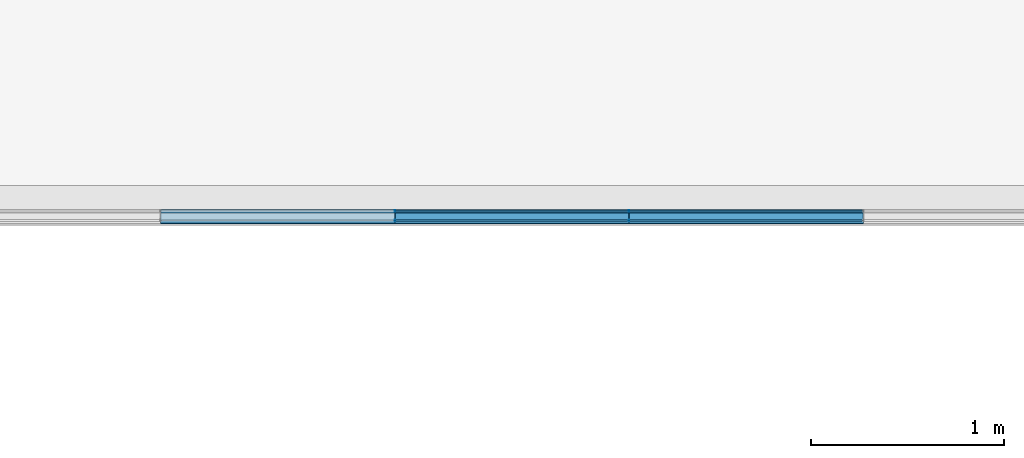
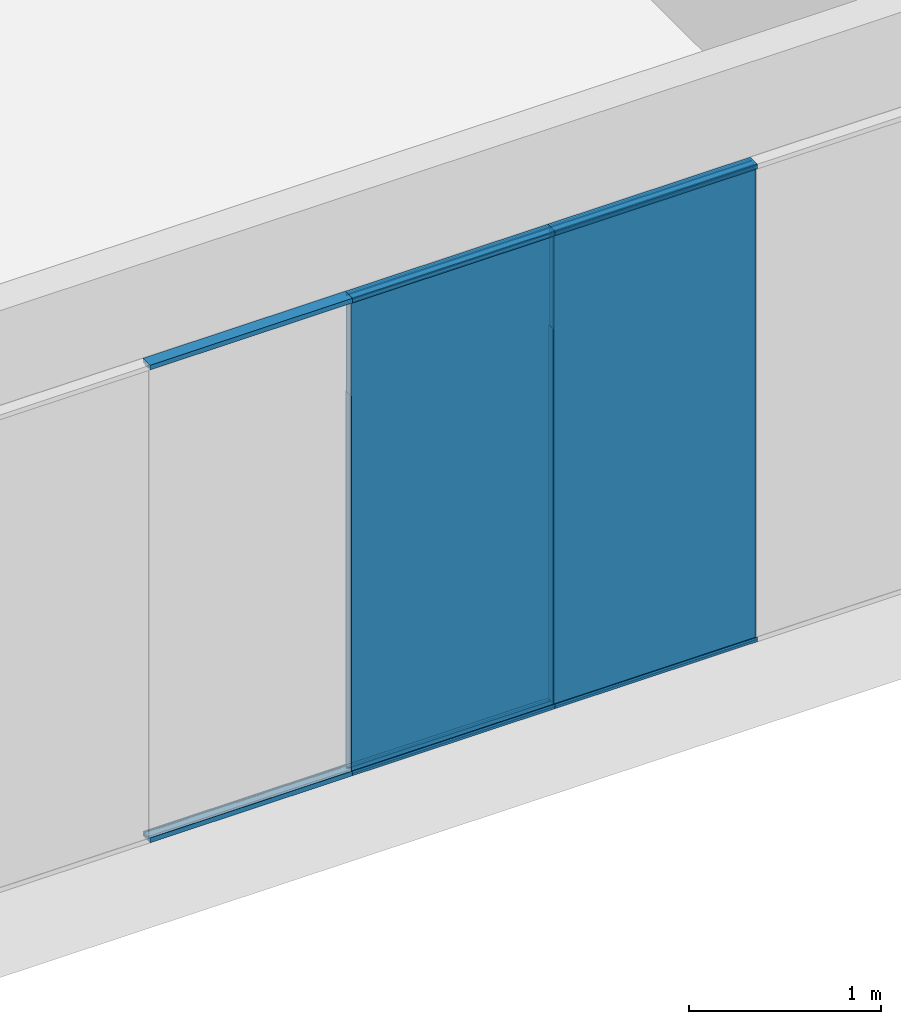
# One storey, part 42 of 387: 19 building element parts, 11 elements without a shape of their own.
"""IFC2X3 building model written with IfcOpenShell, lengths in millimetres."""

from ifc_helpers import new_model, entity, si_unit, converted_unit, derived_unit, money_unit, direction, frame, origin_with_axes, place, context, subcontext, project, spatial, faceted_brep, source, transform, mapped, material, type_object, element, aggregate, save


model = new_model("IFC2X3")

# Units and contexts
model_context = context("Model", 3, precision=0.01, world=origin_with_axes(), true_north=direction((0.0, 1.0)))
body_context = subcontext(model_context, "Body", "Model", "MODEL_VIEW")
ifc_project = project(units=[si_unit("LENGTHUNIT", "METRE", prefix="MILLI"), si_unit("AREAUNIT", "SQUARE_METRE"), si_unit("VOLUMEUNIT", "CUBIC_METRE"), converted_unit("PLANEANGLEUNIT", "DEGREE", entity("IfcPlaneAngleMeasure", 0.0174532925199), si_unit("PLANEANGLEUNIT", "RADIAN"), dimensions=[0, 0, 0, 0, 0, 0, 0]), si_unit("SOLIDANGLEUNIT", "STERADIAN"), money_unit("EUR"), converted_unit("TIMEUNIT", "Year", entity("IfcTimeMeasure", 31556926.0), si_unit("TIMEUNIT", "SECOND"), dimensions=[0, 0, 1, 0, 0, 0, 0]), si_unit("MASSUNIT", "GRAM", prefix="KILO"), si_unit("THERMODYNAMICTEMPERATUREUNIT", "DEGREE_CELSIUS"), si_unit("LUMINOUSINTENSITYUNIT", "LUMEN"), si_unit("ENERGYUNIT", "JOULE", prefix="MEGA"), derived_unit("THERMALCONDUCTANCEUNIT", [(si_unit("POWERUNIT", "WATT"), 1), (si_unit("LENGTHUNIT", "METRE"), -1), (si_unit("THERMODYNAMICTEMPERATUREUNIT", "KELVIN"), -1)]), derived_unit("SPECIFICHEATCAPACITYUNIT", [(si_unit("ENERGYUNIT", "JOULE"), 1), (si_unit("MASSUNIT", "GRAM", prefix="KILO"), -1), (si_unit("THERMODYNAMICTEMPERATUREUNIT", "KELVIN"), -1)]), derived_unit("MASSDENSITYUNIT", [(si_unit("MASSUNIT", "GRAM", prefix="KILO"), 1), (si_unit("VOLUMEUNIT", "CUBIC_METRE"), -1)])], contexts=[model_context])

# Site, building, storey
site_placement = place(None, origin_with_axes())
site = spatial("IfcSite", under=ifc_project, at=site_placement, Name="Puškini 31, Narva", CompositionType="ELEMENT")
building_placement = place(site_placement, origin_with_axes())
building = spatial("IfcBuilding", under=site, at=building_placement, Name="Narva Riigigümnaasium", CompositionType="ELEMENT")
storey_placement = place(building_placement, frame((0.0, 0.0, 2640.0), z_axis=(0.0, 0.0, 1.0), x_axis=(1.0, 0.0, 0.0)))
storey = spatial("IfcBuildingStorey", under=building, at=storey_placement, Name="2.korrus +2.64", CompositionType="ELEMENT", Elevation=2640.0)

# Curtain wall, members, building element parts, plates
curtain_wall_type = type_object("IfcCurtainWallType", Name="Curtain Wall Type", PredefinedType="NOTDEFINED")
curtain_wall_placement = place(storey_placement, frame((37052.5000014, 163542.000002, -0.000124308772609), z_axis=(0.0, 0.0, 1.0), x_axis=(1.0, 0.0, 0.0)))
curtain_wall = element("IfcCurtainWall", 1, at=curtain_wall_placement, inside=storey, type_object=curtain_wall_type, Name="G-SKLF-48")
member_type_1 = type_object("IfcMemberType", Name="Siseklaasfassaad - Raam n2htamatu 3 x 29", PredefinedType="MULLION")
member_1_placement = place(curtain_wall_placement, frame((-1822.5, 0.0, 0.0), z_axis=(0.0, 0.0, 1.0), x_axis=(-1.0, 0.0, 0.0)))
member_1 = element("IfcMember", 2, at=member_1_placement, type_object=member_type_1, Name="Frame-Siseklaasf-071", ObjectType="MULLION")
ifc_material_1 = material(Name="Klaas")
shared_shape_1 = source(origin_with_axes(), body_context, "Body", "Brep", [
    faceted_brep([(-1.5000138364, 20.0064497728, 30.0000193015), (1.4999861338, 20.0064497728, 30.0000193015), (1.4999861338, 20.0064497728, 2400.00012431), (-1.5000138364, 20.0064497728, 2400.00012431), (-1.5000138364, 29.0064496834, 30.0000193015), (1.4999861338, 29.0064496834, 30.0000193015), (1.4999861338, 29.0064496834, 2400.00012431), (-1.5000138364, 29.0064496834, 2400.00012431)], [[[0, 1, 2, 3]], [[1, 0, 4, 5]], [[1, 5, 6, 2]], [[2, 6, 7, 3]], [[4, 0, 3, 7]], [[5, 4, 7, 6]]]),
    faceted_brep([(1.4999861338, -28.9935503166, 30.0000193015), (1.4999861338, -19.993550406, 30.0000193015), (1.4999861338, -19.993550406, 2400.00012431), (1.4999861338, -28.9935503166, 2400.00012431), (-1.5000138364, -28.9935503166, 30.0000193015), (-1.5000138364, -19.993550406, 30.0000193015), (-1.5000138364, -19.993550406, 2400.00012431), (-1.5000138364, -28.9935503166, 2400.00012431)], [[[0, 1, 2, 3]], [[1, 0, 4, 5]], [[1, 5, 6, 2]], [[2, 6, 7, 3]], [[4, 0, 3, 7]], [[5, 4, 7, 6]]]),
])
building_element_part_1_placement = place(member_1_placement, origin_with_axes())
building_element_part_1 = element("IfcBuildingElementPart", 3, at=building_element_part_1_placement, material=ifc_material_1, Name="Klaas", context=body_context, shape_type="MappedRepresentation", body=[
    mapped(shared_shape_1, transform((0.0, 0.0, 0.0), x_axis=(-1.0, 0.0, 0.0), y_axis=(0.0, -1.0, 0.0), z_axis=(0.0, 0.0, 1.0))),
])
member_2_placement = place(curtain_wall_placement, frame((-607.5, 0.0, 0.0), z_axis=(0.0, 0.0, 1.0), x_axis=(-1.0, 0.0, 0.0)))
member_2 = element("IfcMember", 4, at=member_2_placement, type_object=member_type_1, Name="Frame-Siseklaasf-074", ObjectType="MULLION")
building_element_part_2_placement = place(member_2_placement, origin_with_axes())
building_element_part_2 = element("IfcBuildingElementPart", 5, at=building_element_part_2_placement, material=ifc_material_1, Name="Klaas", context=body_context, shape_type="MappedRepresentation", body=[
    mapped(shared_shape_1, transform((0.0, 0.0, 0.0), x_axis=(-1.0, 0.0, 0.0), y_axis=(0.0, -1.0, 0.0), z_axis=(0.0, 0.0, 1.0))),
])
ifc_material_2 = material(Name="VKR-06_Õhkvahe")
shared_shape_2 = source(origin_with_axes(), body_context, "Body", "Brep", [
    faceted_brep([(1.4999861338, -19.9935503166, 30.0000193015), (1.4999861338, 20.0064496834, 30.0000193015), (1.4999861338, 20.0064496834, 2400.00012431), (1.4999861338, -19.9935503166, 2400.00012431), (-1.5000138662, -19.9935503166, 30.0000193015), (-1.5000138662, 20.0064496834, 30.0000193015), (-1.5000138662, 20.0064496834, 2400.00012431), (-1.5000138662, -19.9935503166, 2400.00012431)], [[[0, 1, 2, 3]], [[1, 0, 4, 5]], [[1, 5, 6, 2]], [[2, 6, 7, 3]], [[4, 0, 3, 7]], [[5, 4, 7, 6]]]),
])
building_element_part_3_placement = place(member_1_placement, origin_with_axes())
building_element_part_3 = element("IfcBuildingElementPart", 6, at=building_element_part_3_placement, material=ifc_material_2, Name="VKR-06_Õhkvahe", context=body_context, shape_type="MappedRepresentation", body=[
    mapped(shared_shape_2, transform((0.0, 0.0, 0.0), x_axis=(-1.0, 0.0, 0.0), y_axis=(0.0, -1.0, 0.0), z_axis=(0.0, 0.0, 1.0))),
])
aggregate(member_1, [building_element_part_1, building_element_part_3])
building_element_part_4_placement = place(member_2_placement, origin_with_axes())
building_element_part_4 = element("IfcBuildingElementPart", 7, at=building_element_part_4_placement, material=ifc_material_2, Name="VKR-06_Õhkvahe", context=body_context, shape_type="MappedRepresentation", body=[
    mapped(shared_shape_2, transform((0.0, 0.0, 0.0), x_axis=(-1.0, 0.0, 0.0), y_axis=(0.0, -1.0, 0.0), z_axis=(0.0, 0.0, 1.0))),
])
aggregate(member_2, [building_element_part_2, building_element_part_4])
member_type_2 = type_object("IfcMemberType", Name="Boundary Frame 30 x 42", PredefinedType="MULLION")
member_3_placement = place(curtain_wall_placement, frame((-607.5, 0.0, 3030.00007225), z_axis=(-1.0, 0.0, 0.0), x_axis=(0.0, 0.0, -1.0)))
member_3 = element("IfcMember", 8, at=member_3_placement, type_object=member_type_2, Name="G-SKLF-75-raam", ObjectType="MULLION")
ifc_material_3 = material(Name="Klaasvill")
shared_shape_3 = source(origin_with_axes(), body_context, "Body", "Brep", [
    faceted_brep([(-7.49999990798, 15.000000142, -2.079791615e-07), (-7.49999990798, 15.000000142, 1215.00000021), (-13.8499999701, 15.000000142, 1215.00000021), (-13.8499999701, 15.000000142, -2.079791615e-07), (-7.49999990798, 29.0161444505, -2.079791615e-07), (-7.49999990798, 29.0161444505, 1215.00000021), (-13.8499999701, 29.0161444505, 1215.00000021), (-13.8499999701, 29.0161444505, -2.079791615e-07)], [[[0, 1, 2, 3]], [[4, 5, 1, 0]], [[1, 5, 6, 2]], [[3, 2, 6, 7]], [[0, 3, 7, 4]], [[7, 6, 5, 4]]]),
    faceted_brep([(-24.987414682, 29.0161444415, -2.079791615e-07), (-24.987414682, 29.0161444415, 1215.00000021), (-25.004489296, 27.0307503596, 1215.00000021), (-25.004489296, 27.0307503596, -2.079791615e-07), (-28.5126239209, 29.0161444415, -2.079791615e-07), (-28.5126239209, 29.0161444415, 1215.00000021), (-28.7655837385, 28.0385325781, 1215.00000021), (-28.4955493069, 27.0307503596, 1215.00000021), (-27.75780152, 26.2930025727, 1215.00000021), (-26.7500193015, 26.0229681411, 1215.00000021), (-25.742237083, 26.2930025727, 1215.00000021), (-25.742237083, 26.2930025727, -2.079791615e-07), (-26.7500193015, 26.0229681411, -2.079791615e-07), (-27.75780152, 26.2930025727, -2.079791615e-07), (-28.4955493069, 27.0307503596, -2.079791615e-07), (-28.7655837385, 28.0385325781, -2.079791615e-07)], [[[0, 1, 2, 3]], [[4, 5, 1, 0]], [[1, 5, 6, 7, 8, 9, 10, 2]], [[3, 2, 10, 11]], [[0, 3, 11, 12, 13, 14, 15, 4]], [[15, 6, 5, 4]], [[14, 7, 6, 15]], [[13, 8, 7, 14]], [[12, 9, 8, 13]], [[11, 10, 9, 12]]]),
    faceted_brep([(-7.49999990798, -24.9999997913, -2.079791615e-07), (-7.49999990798, -24.9999997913, 1215.00000021), (-7.49999990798, -39.0161445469, 1215.00000021), (-7.49999990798, -39.0161445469, -2.079791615e-07), (-13.8499999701, -24.9999997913, -2.079791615e-07), (-13.8499999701, -24.9999997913, 1215.00000021), (-13.8499999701, -39.0161445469, 1215.00000021), (-13.8499999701, -39.0161445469, -2.079791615e-07)], [[[0, 1, 2, 3]], [[4, 5, 1, 0]], [[1, 5, 6, 2]], [[3, 2, 6, 7]], [[0, 3, 7, 4]], [[7, 6, 5, 4]]]),
    faceted_brep([(-25.004489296, -37.0307503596, -2.079791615e-07), (-25.004489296, -37.0307503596, 1215.00000021), (-24.987414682, -39.0161444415, 1215.00000021), (-24.987414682, -39.0161444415, -2.079791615e-07), (-25.742237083, -36.2930025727, -2.079791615e-07), (-25.742237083, -36.2930025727, 1215.00000021), (-26.7500193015, -36.0229681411, 1215.00000021), (-27.75780152, -36.2930025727, 1215.00000021), (-28.4955493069, -37.0307503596, 1215.00000021), (-28.7655837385, -38.0385325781, 1215.00000021), (-28.5126239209, -39.0161444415, 1215.00000021), (-28.5126239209, -39.0161444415, -2.079791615e-07), (-28.7655837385, -38.0385325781, -2.079791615e-07), (-28.4955493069, -37.0307503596, -2.079791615e-07), (-27.75780152, -36.2930025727, -2.079791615e-07), (-26.7500193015, -36.0229681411, -2.079791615e-07)], [[[0, 1, 2, 3]], [[4, 5, 1, 0]], [[1, 5, 6, 7, 8, 9, 10, 2]], [[3, 2, 10, 11]], [[0, 3, 11, 12, 13, 14, 15, 4]], [[15, 6, 5, 4]], [[14, 7, 6, 15]], [[13, 8, 7, 14]], [[12, 9, 8, 13]], [[11, 10, 9, 12]]]),
])
building_element_part_5_placement = place(member_3_placement, origin_with_axes())
building_element_part_5 = element("IfcBuildingElementPart", 9, at=building_element_part_5_placement, material=ifc_material_3, Name="Klaasvill", context=body_context, shape_type="MappedRepresentation", body=[
    mapped(shared_shape_3, transform((0.0, 0.0, 0.0), x_axis=(-1.0, 0.0, 0.0), y_axis=(0.0, -1.0, 0.0), z_axis=(0.0, 0.0, 1.0))),
])
member_4_placement = place(curtain_wall_placement, frame((607.5, 0.0, 3030.00007225), z_axis=(-1.0, 0.0, 0.0), x_axis=(0.0, 0.0, -1.0)))
member_4 = element("IfcMember", 10, at=member_4_placement, type_object=member_type_2, Name="G-SKLF-74-raam", ObjectType="MULLION")
building_element_part_6_placement = place(member_4_placement, origin_with_axes())
building_element_part_6 = element("IfcBuildingElementPart", 11, at=building_element_part_6_placement, material=ifc_material_3, Name="Klaasvill", context=body_context, shape_type="MappedRepresentation", body=[
    mapped(shared_shape_3, transform((0.0, 0.0, 0.0), x_axis=(-1.0, 0.0, 0.0), y_axis=(0.0, -1.0, 0.0), z_axis=(0.0, 0.0, 1.0))),
])
member_5_placement = place(curtain_wall_placement, frame((-3037.5, 0.0, 0.0), z_axis=(1.0, 0.0, 0.0), x_axis=(0.0, 0.0, 1.0)))
member_5 = element("IfcMember", 12, at=member_5_placement, type_object=member_type_2, Name="G-SKLF-65-raam", ObjectType="MULLION")
building_element_part_7_placement = place(member_5_placement, origin_with_axes())
building_element_part_7 = element("IfcBuildingElementPart", 13, at=building_element_part_7_placement, material=ifc_material_3, Name="Klaasvill", context=body_context, shape_type="MappedRepresentation", body=[
    mapped(shared_shape_3, transform((0.0, 0.0, 0.0), x_axis=(-1.0, 0.0, 0.0), y_axis=(0.0, -1.0, 0.0), z_axis=(0.0, 0.0, 1.0))),
])
member_6_placement = place(curtain_wall_placement, frame((-1822.5, 0.0, 0.0), z_axis=(1.0, 0.0, 0.0), x_axis=(0.0, 0.0, 1.0)))
member_6 = element("IfcMember", 14, at=member_6_placement, type_object=member_type_2, Name="G-SKLF-66-raam", ObjectType="MULLION")
building_element_part_8_placement = place(member_6_placement, origin_with_axes())
building_element_part_8 = element("IfcBuildingElementPart", 15, at=building_element_part_8_placement, material=ifc_material_3, Name="Klaasvill", context=body_context, shape_type="MappedRepresentation", body=[
    mapped(shared_shape_3, transform((0.0, 0.0, 0.0), x_axis=(-1.0, 0.0, 0.0), y_axis=(0.0, -1.0, 0.0), z_axis=(0.0, 0.0, 1.0))),
])
member_7_placement = place(curtain_wall_placement, frame((-607.5, 0.0, 0.0), z_axis=(1.0, 0.0, 0.0), x_axis=(0.0, 0.0, 1.0)))
member_7 = element("IfcMember", 16, at=member_7_placement, type_object=member_type_2, Name="G-SKLF-67-raam", ObjectType="MULLION")
building_element_part_9_placement = place(member_7_placement, origin_with_axes())
building_element_part_9 = element("IfcBuildingElementPart", 17, at=building_element_part_9_placement, material=ifc_material_3, Name="Klaasvill", context=body_context, shape_type="MappedRepresentation", body=[
    mapped(shared_shape_3, transform((0.0, 0.0, 0.0), x_axis=(-1.0, 0.0, 0.0), y_axis=(0.0, -1.0, 0.0), z_axis=(0.0, 0.0, 1.0))),
])
member_8_placement = place(curtain_wall_placement, frame((-1822.5, 0.0, 3030.00007225), z_axis=(-1.0, 0.0, 1.38652685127e-08), x_axis=(-1.38652685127e-08, 0.0, -1.0)))
member_8 = element("IfcMember", 18, at=member_8_placement, type_object=member_type_2, Name="G-SKLF-76-raam", ObjectType="MULLION")
ifc_material_4 = material(Name="Teras RAL7012")
shared_shape_4 = source(origin_with_axes(), body_context, "Body", "Brep", [
    faceted_brep([(0.0, -22.0000000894, -2.079791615e-07), (0.0, -22.0000000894, 1215.00000021), (-29.5999996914, -22.0000000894, 1215.00000021), (-29.5999996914, -22.0000000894, -2.079791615e-07), (0.0, 12.0000000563, -2.079791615e-07), (0.0, 12.0000000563, 1215.00000021), (-29.5999996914, 12.0000000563, 1215.00000021), (-1.9999999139, 10.0000001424, 1215.00000021), (-1.9999999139, -20.0000001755, 1215.00000021), (-18.7999996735, -20.0000001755, 1215.00000021), (-18.7999996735, 10.0000001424, 1215.00000021), (-29.5999996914, 12.0000000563, -2.079791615e-07), (-1.9999999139, 10.0000001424, -2.079791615e-07), (-18.7999996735, 10.0000001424, -2.079791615e-07), (-18.7999996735, -20.0000001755, -2.079791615e-07), (-1.9999999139, -20.0000001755, -2.079791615e-07)], [[[0, 1, 2, 3]], [[4, 5, 1, 0]], [[1, 5, 6, 2], [7, 8, 9, 10]], [[3, 2, 6, 11]], [[0, 3, 11, 4], [12, 13, 14, 15]], [[11, 6, 5, 4]], [[15, 8, 7, 12]], [[14, 9, 8, 15]], [[13, 10, 9, 14]], [[12, 7, 10, 13]]]),
    faceted_brep([(0.0, 12.0, -2.079791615e-07), (0.0, 12.0, 1215.00000021), (-29.5999996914, 12.0000000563, 1215.00000021), (-29.5999996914, 12.0000000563, -2.079791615e-07), (0.0, 32.0, -2.079791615e-07), (0.0, 32.0, 1215.00000021), (-30.0000193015, 32.0, 1215.00000021), (-30.0000193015, 29.0161444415, 1215.00000021), (-28.5126239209, 29.0161444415, 1215.00000021), (-24.987414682, 29.0161444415, 1215.00000021), (-13.8499999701, 29.0161444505, 1215.00000021), (-7.49999999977, 29.0161444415, 1215.00000021), (-7.49999999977, 15.0, 1215.00000021), (-13.8499999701, 15.000000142, 1215.00000021), (-30.0000193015, 15.0, 1215.00000021), (-30.0000193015, 12.0, 1215.00000021), (-30.0000193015, 12.0, -2.079791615e-07), (-30.0000193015, 15.0, -2.079791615e-07), (-13.8499999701, 15.000000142, -2.079791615e-07), (-7.49999999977, 15.0, -2.079791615e-07), (-7.49999999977, 29.0161444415, -2.079791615e-07), (-13.8499999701, 29.0161444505, -2.079791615e-07), (-24.987414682, 29.0161444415, -2.079791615e-07), (-28.5126239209, 29.0161444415, -2.079791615e-07), (-30.0000193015, 29.0161444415, -2.079791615e-07), (-30.0000193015, 32.0, -2.079791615e-07)], [[[0, 1, 2, 3]], [[4, 5, 1, 0]], [[1, 5, 6, 7, 8, 9, 10, 11, 12, 13, 14, 15, 2]], [[3, 2, 15, 16]], [[0, 3, 16, 17, 18, 19, 20, 21, 22, 23, 24, 25, 4]], [[25, 6, 5, 4]], [[24, 7, 6, 25]], [[23, 8, 7, 24]], [[22, 9, 8, 23]], [[21, 10, 9, 22]], [[20, 11, 10, 21]], [[19, 12, 11, 20]], [[18, 13, 12, 19]], [[17, 14, 13, 18]], [[16, 15, 14, 17]]]),
    faceted_brep([(0.0, -22.0, -2.079791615e-07), (0.0, -22.0, 1215.00000021), (0.0, -42.0, 1215.00000021), (0.0, -42.0, -2.079791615e-07), (-29.5999996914, -22.0000000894, -2.079791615e-07), (-29.5999996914, -22.0000000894, 1215.00000021), (-30.0000193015, -22.0, 1215.00000021), (-30.0000193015, -25.0, 1215.00000021), (-13.8499999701, -24.9999997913, 1215.00000021), (-7.49999999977, -25.0, 1215.00000021), (-7.49999999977, -39.0161444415, 1215.00000021), (-13.8499999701, -39.0161445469, 1215.00000021), (-24.987414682, -39.0161444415, 1215.00000021), (-28.5126239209, -39.0161444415, 1215.00000021), (-30.0000193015, -39.0161444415, 1215.00000021), (-30.0000193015, -42.0, 1215.00000021), (-30.0000193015, -42.0, -2.079791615e-07), (-30.0000193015, -39.0161444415, -2.079791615e-07), (-28.5126239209, -39.0161444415, -2.079791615e-07), (-24.987414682, -39.0161444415, -2.079791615e-07), (-13.8499999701, -39.0161445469, -2.079791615e-07), (-7.49999999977, -39.0161444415, -2.079791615e-07), (-7.49999999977, -25.0, -2.079791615e-07), (-13.8499999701, -24.9999997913, -2.079791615e-07), (-30.0000193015, -25.0, -2.079791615e-07), (-30.0000193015, -22.0, -2.079791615e-07)], [[[0, 1, 2, 3]], [[4, 5, 1, 0]], [[1, 5, 6, 7, 8, 9, 10, 11, 12, 13, 14, 15, 2]], [[3, 2, 15, 16]], [[0, 3, 16, 17, 18, 19, 20, 21, 22, 23, 24, 25, 4]], [[25, 6, 5, 4]], [[24, 7, 6, 25]], [[23, 8, 7, 24]], [[22, 9, 8, 23]], [[21, 10, 9, 22]], [[20, 11, 10, 21]], [[19, 12, 11, 20]], [[18, 13, 12, 19]], [[17, 14, 13, 18]], [[16, 15, 14, 17]]]),
])
building_element_part_10_placement = place(member_8_placement, origin_with_axes())
building_element_part_10 = element("IfcBuildingElementPart", 19, at=building_element_part_10_placement, material=ifc_material_4, Name="Teras RAL7012", context=body_context, shape_type="MappedRepresentation", body=[
    mapped(shared_shape_4, transform((0.0, 0.0, 0.0), x_axis=(-1.0, 0.0, 1.38652685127e-08), y_axis=(0.0, -1.0, 0.0), z_axis=(1.38652685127e-08, 0.0, 1.0))),
])
aggregate(member_8, [building_element_part_10])
building_element_part_11_placement = place(member_3_placement, origin_with_axes())
building_element_part_11 = element("IfcBuildingElementPart", 20, at=building_element_part_11_placement, material=ifc_material_4, Name="Teras RAL7012", context=body_context, shape_type="MappedRepresentation", body=[
    mapped(shared_shape_4, transform((0.0, 0.0, 0.0), x_axis=(-1.0, 0.0, 0.0), y_axis=(0.0, -1.0, 0.0), z_axis=(0.0, 0.0, 1.0))),
])
aggregate(member_3, [building_element_part_5, building_element_part_11])
building_element_part_12_placement = place(member_4_placement, origin_with_axes())
building_element_part_12 = element("IfcBuildingElementPart", 21, at=building_element_part_12_placement, material=ifc_material_4, Name="Teras RAL7012", context=body_context, shape_type="MappedRepresentation", body=[
    mapped(shared_shape_4, transform((0.0, 0.0, 0.0), x_axis=(-1.0, 0.0, 0.0), y_axis=(0.0, -1.0, 0.0), z_axis=(0.0, 0.0, 1.0))),
])
aggregate(member_4, [building_element_part_6, building_element_part_12])
building_element_part_13_placement = place(member_5_placement, origin_with_axes())
building_element_part_13 = element("IfcBuildingElementPart", 22, at=building_element_part_13_placement, material=ifc_material_4, Name="Teras RAL7012", context=body_context, shape_type="MappedRepresentation", body=[
    mapped(shared_shape_4, transform((0.0, 0.0, 0.0), x_axis=(-1.0, 0.0, 0.0), y_axis=(0.0, -1.0, 0.0), z_axis=(0.0, 0.0, 1.0))),
])
aggregate(member_5, [building_element_part_7, building_element_part_13])
building_element_part_14_placement = place(member_6_placement, origin_with_axes())
building_element_part_14 = element("IfcBuildingElementPart", 23, at=building_element_part_14_placement, material=ifc_material_4, Name="Teras RAL7012", context=body_context, shape_type="MappedRepresentation", body=[
    mapped(shared_shape_4, transform((0.0, 0.0, 0.0), x_axis=(-1.0, 0.0, 0.0), y_axis=(0.0, -1.0, 0.0), z_axis=(0.0, 0.0, 1.0))),
])
aggregate(member_6, [building_element_part_8, building_element_part_14])
building_element_part_15_placement = place(member_7_placement, origin_with_axes())
building_element_part_15 = element("IfcBuildingElementPart", 24, at=building_element_part_15_placement, material=ifc_material_4, Name="Teras RAL7012", context=body_context, shape_type="MappedRepresentation", body=[
    mapped(shared_shape_4, transform((0.0, 0.0, 0.0), x_axis=(-1.0, 0.0, 0.0), y_axis=(0.0, -1.0, 0.0), z_axis=(0.0, 0.0, 1.0))),
])
aggregate(member_7, [building_element_part_9, building_element_part_15])
plate_type = type_object("IfcPlateType", Name="Siseklaasfassaad - Klaas 1212 x 615 x 10", PredefinedType="CURTAIN_PANEL")
plate_1_placement = place(curtain_wall_placement, frame((0.0, 0.0, 1810.00006552), z_axis=(0.0, 0.0, 1.0), x_axis=(-1.0, 0.0, 0.0)))
plate_1 = element("IfcPlate", 25, at=plate_1_placement, type_object=plate_type, Name="G-SKLF-48-klaas", ObjectType="CURTAIN_PANEL")
ifc_material_5 = material(Name="VKR-05_Klaas")
shared_shape_5 = source(origin_with_axes(), body_context, "Body", "Brep", [
    faceted_brep([(-1213.50002089, 3015.00006206, -29.0), (-1213.50002089, 3015.00006206, -20.0), (-1.49999198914, 3015.00006206, -20.0), (-1.49999198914, 3015.00006206, -29.0), (-1213.50002089, 15.0000101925, -29.0), (-1213.50002089, 15.0000101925, -20.0), (-1.49999198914, 15.0000101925, -20.0), (-1.49999198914, 15.0000101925, -29.0)], [[[0, 1, 2, 3]], [[4, 5, 1, 0]], [[1, 5, 6, 2]], [[3, 2, 6, 7]], [[0, 3, 7, 4]], [[7, 6, 5, 4]]]),
    faceted_brep([(-1213.50002089, 3015.00006206, 20.0), (-1213.50002089, 3015.00006206, 29.0), (-1.49999198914, 3015.00006206, 29.0), (-1.49999198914, 3015.00006206, 20.0), (-1213.50002089, 15.0000101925, 20.0), (-1213.50002089, 15.0000101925, 29.0), (-1.49999198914, 15.0000101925, 29.0), (-1.49999198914, 15.0000101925, 20.0)], [[[0, 1, 2, 3]], [[4, 5, 1, 0]], [[1, 5, 6, 2]], [[3, 2, 6, 7]], [[0, 3, 7, 4]], [[7, 6, 5, 4]]]),
])
building_element_part_16_placement = place(plate_1_placement, origin_with_axes())
building_element_part_16 = element("IfcBuildingElementPart", 26, at=building_element_part_16_placement, material=ifc_material_5, Name="VKR-05_Klaas", context=body_context, shape_type="MappedRepresentation", body=[
    mapped(shared_shape_5, transform((607.5, 0.0, -1810.00006552), x_axis=(1.0, 0.0, 0.0), y_axis=(0.0, 0.0, 1.0), z_axis=(0.0, -1.0, 0.0))),
])
plate_2_placement = place(curtain_wall_placement, frame((-1215.0, 0.0, 1810.00006552), z_axis=(0.0, 0.0, 1.0), x_axis=(-1.0, 0.0, 0.0)))
plate_2 = element("IfcPlate", 27, at=plate_2_placement, type_object=plate_type, Name="G-SKLF-48-klaas", ObjectType="CURTAIN_PANEL")
aggregate(curtain_wall, [member_8, member_3, member_4, member_5, member_1, member_6, member_2, member_7, plate_1, plate_2])
building_element_part_17_placement = place(plate_2_placement, origin_with_axes())
building_element_part_17 = element("IfcBuildingElementPart", 28, at=building_element_part_17_placement, material=ifc_material_5, Name="VKR-05_Klaas", context=body_context, shape_type="MappedRepresentation", body=[
    mapped(shared_shape_5, transform((607.5, 0.0, -1810.00006552), x_axis=(1.0, 0.0, 0.0), y_axis=(0.0, 0.0, 1.0), z_axis=(0.0, -1.0, 0.0))),
])
shared_shape_6 = source(origin_with_axes(), body_context, "Body", "Brep", [
    faceted_brep([(-1213.50002089, 3015.00006206, -20.0), (-1213.50002089, 3015.00006206, 20.0), (-1.49999198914, 3015.00006206, 20.0), (-1.49999198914, 3015.00006206, -20.0), (-1213.50002089, 15.0000101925, -20.0), (-1213.50002089, 15.0000101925, 20.0), (-1.49999198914, 15.0000101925, 20.0), (-1.49999198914, 15.0000101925, -20.0)], [[[0, 1, 2, 3]], [[4, 5, 1, 0]], [[1, 5, 6, 2]], [[3, 2, 6, 7]], [[0, 3, 7, 4]], [[7, 6, 5, 4]]]),
])
building_element_part_18_placement = place(plate_1_placement, origin_with_axes())
building_element_part_18 = element("IfcBuildingElementPart", 29, at=building_element_part_18_placement, material=ifc_material_2, Name="VKR-06_Õhkvahe", context=body_context, shape_type="MappedRepresentation", body=[
    mapped(shared_shape_6, transform((607.5, 0.0, -1810.00006552), x_axis=(1.0, 0.0, 0.0), y_axis=(0.0, 0.0, 1.0), z_axis=(0.0, -1.0, 0.0))),
])
aggregate(plate_1, [building_element_part_16, building_element_part_18])
building_element_part_19_placement = place(plate_2_placement, origin_with_axes())
building_element_part_19 = element("IfcBuildingElementPart", 30, at=building_element_part_19_placement, material=ifc_material_2, Name="VKR-06_Õhkvahe", context=body_context, shape_type="MappedRepresentation", body=[
    mapped(shared_shape_6, transform((607.5, 0.0, -1810.00006552), x_axis=(1.0, 0.0, 0.0), y_axis=(0.0, 0.0, 1.0), z_axis=(0.0, -1.0, 0.0))),
])
aggregate(plate_2, [building_element_part_17, building_element_part_19])

save(model, "model.ifc")
